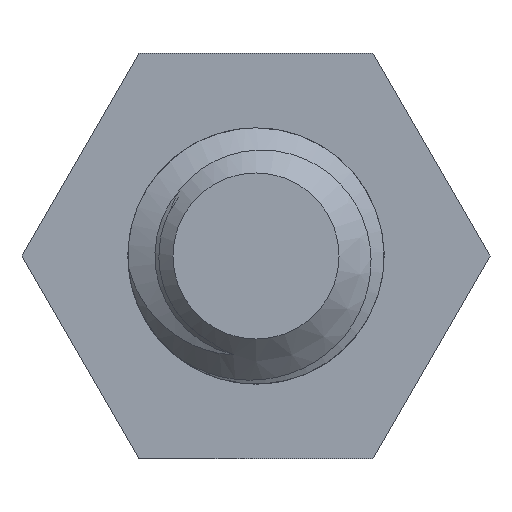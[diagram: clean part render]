
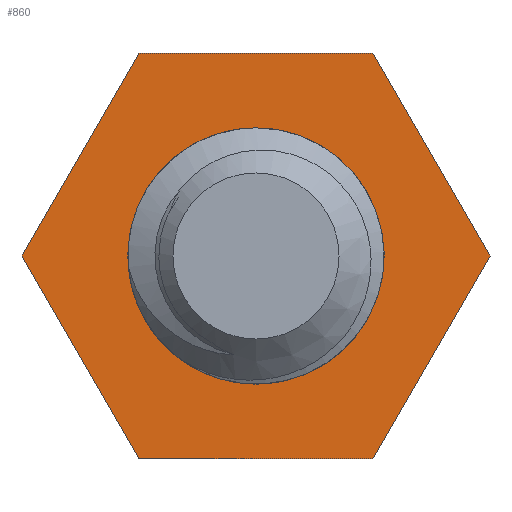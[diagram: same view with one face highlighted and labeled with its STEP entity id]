
A CAD part, front view. The second image highlights one B-rep face of the part: STEP entity #860.
In plain terms, the highlighted planar face has unit normal (0, -1, 0).
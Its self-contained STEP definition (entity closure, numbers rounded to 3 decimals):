
#29 = CARTESIAN_POINT ( 'NONE',  ( 0., 0., 0. ) ) ;
#40 = LINE ( 'NONE', #477, #1017 ) ;
#65 = ORIENTED_EDGE ( 'NONE', *, *, #191, .T. ) ;
#77 = VERTEX_POINT ( 'NONE', #1662 ) ;
#97 = VERTEX_POINT ( 'NONE', #1657 ) ;
#99 = DIRECTION ( 'NONE',  ( 0., 1., 0. ) ) ;
#102 = CARTESIAN_POINT ( 'NONE',  ( 1.299, 0., -2.25 ) ) ;
#127 = EDGE_CURVE ( 'NONE', #473, #77, #1868, .T. ) ;
#135 = VECTOR ( 'NONE', #674, 1000. ) ;
#191 = EDGE_CURVE ( 'NONE', #97, #97, #1189, .T. ) ;
#228 = VERTEX_POINT ( 'NONE', #935 ) ;
#288 = CARTESIAN_POINT ( 'NONE',  ( -1.299, 0., 2.25 ) ) ;
#331 = FACE_BOUND ( 'NONE', #533, .T. ) ;
#354 = DIRECTION ( 'NONE',  ( 0., 1., 0. ) ) ;
#362 = ORIENTED_EDGE ( 'NONE', *, *, #706, .F. ) ;
#365 = CARTESIAN_POINT ( 'NONE',  ( -2.598, 0., 0. ) ) ;
#378 = ORIENTED_EDGE ( 'NONE', *, *, #1050, .F. ) ;
#379 = ORIENTED_EDGE ( 'NONE', *, *, #715, .F. ) ;
#383 = AXIS2_PLACEMENT_3D ( 'NONE', #1643, #99, #1808 ) ;
#402 = LINE ( 'NONE', #1331, #918 ) ;
#473 = VERTEX_POINT ( 'NONE', #288 ) ;
#477 = CARTESIAN_POINT ( 'NONE',  ( -2.598, 0., 0. ) ) ;
#484 = VECTOR ( 'NONE', #1336, 1000. ) ;
#533 = EDGE_LOOP ( 'NONE', ( #65 ) ) ;
#538 = DIRECTION ( 'NONE',  ( -0.5, 0., -0.866 ) ) ;
#542 = EDGE_LOOP ( 'NONE', ( #848, #379, #362, #996, #1544, #378 ) ) ;
#629 = VERTEX_POINT ( 'NONE', #643 ) ;
#643 = CARTESIAN_POINT ( 'NONE',  ( 2.598, 0., 0. ) ) ;
#652 = LINE ( 'NONE', #828, #135 ) ;
#674 = DIRECTION ( 'NONE',  ( -0.5, 0., 0.866 ) ) ;
#688 = VERTEX_POINT ( 'NONE', #1886 ) ;
#706 = EDGE_CURVE ( 'NONE', #688, #1743, #652, .T. ) ;
#715 = EDGE_CURVE ( 'NONE', #1743, #473, #40, .T. ) ;
#805 = PLANE ( 'NONE',  #1525 ) ;
#828 = CARTESIAN_POINT ( 'NONE',  ( -1.299, 0., -2.25 ) ) ;
#848 = ORIENTED_EDGE ( 'NONE', *, *, #127, .F. ) ;
#860 = ADVANCED_FACE ( 'NONE', ( #331, #1569 ), #805, .F. ) ;
#874 = LINE ( 'NONE', #1937, #1952 ) ;
#918 = VECTOR ( 'NONE', #1174, 1000. ) ;
#935 = CARTESIAN_POINT ( 'NONE',  ( 1.299, 0., -2.25 ) ) ;
#964 = EDGE_CURVE ( 'NONE', #629, #228, #874, .T. ) ;
#969 = DIRECTION ( 'NONE',  ( 0., 0., 1. ) ) ;
#996 = ORIENTED_EDGE ( 'NONE', *, *, #1220, .F. ) ;
#1017 = VECTOR ( 'NONE', #1278, 1000. ) ;
#1050 = EDGE_CURVE ( 'NONE', #77, #629, #402, .T. ) ;
#1174 = DIRECTION ( 'NONE',  ( 0.5, 0., -0.866 ) ) ;
#1189 = CIRCLE ( 'NONE', #383, 1.422 ) ;
#1220 = EDGE_CURVE ( 'NONE', #228, #688, #1944, .T. ) ;
#1278 = DIRECTION ( 'NONE',  ( 0.5, 0., 0.866 ) ) ;
#1331 = CARTESIAN_POINT ( 'NONE',  ( 1.299, 0., 2.25 ) ) ;
#1336 = DIRECTION ( 'NONE',  ( 1., 0., 0. ) ) ;
#1338 = DIRECTION ( 'NONE',  ( -1., 0., 0. ) ) ;
#1395 = CARTESIAN_POINT ( 'NONE',  ( -1.299, 0., 2.25 ) ) ;
#1525 = AXIS2_PLACEMENT_3D ( 'NONE', #29, #354, #969 ) ;
#1544 = ORIENTED_EDGE ( 'NONE', *, *, #964, .F. ) ;
#1569 = FACE_OUTER_BOUND ( 'NONE', #542, .T. ) ;
#1643 = CARTESIAN_POINT ( 'NONE',  ( 0., 0., 0. ) ) ;
#1657 = CARTESIAN_POINT ( 'NONE',  ( 0., 0., 1.422 ) ) ;
#1662 = CARTESIAN_POINT ( 'NONE',  ( 1.299, 0., 2.25 ) ) ;
#1743 = VERTEX_POINT ( 'NONE', #365 ) ;
#1793 = VECTOR ( 'NONE', #1338, 1000. ) ;
#1808 = DIRECTION ( 'NONE',  ( 0., 0., 1. ) ) ;
#1868 = LINE ( 'NONE', #1395, #484 ) ;
#1886 = CARTESIAN_POINT ( 'NONE',  ( -1.299, 0., -2.25 ) ) ;
#1937 = CARTESIAN_POINT ( 'NONE',  ( 2.598, 0., 0. ) ) ;
#1944 = LINE ( 'NONE', #102, #1793 ) ;
#1952 = VECTOR ( 'NONE', #538, 1000. ) ;
